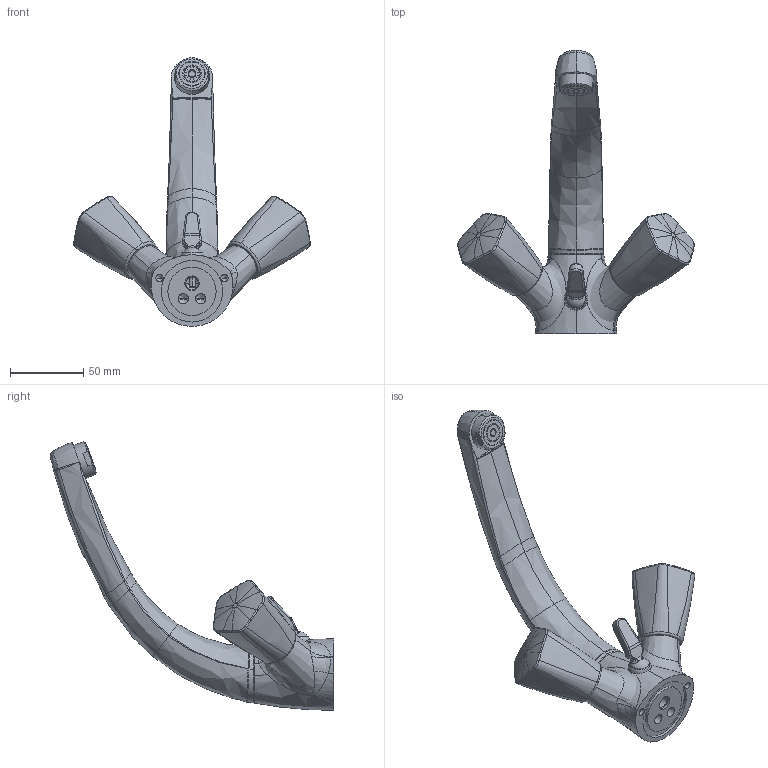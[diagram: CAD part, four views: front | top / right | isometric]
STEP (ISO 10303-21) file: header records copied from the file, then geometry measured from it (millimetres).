
FILE_DESCRIPTION((''),'2;1');
FILE_NAME('501850_SW0001','2020-06-22T14:46:20',('LF994'),(''),'CREO PARAMETRIC BY PTC INC, 2018500','CREO PARAMETRIC BY PTC INC, 2018500','');
FILE_SCHEMA(('CONFIG_CONTROL_DESIGN'));
Products named in the file (1): 501850_SW0001
Bounding box: 161.78 x 193.85 x 183.84 mm (x, y, z)
Volume: 285124.4 mm3; surface area: 80177.7 mm2
Topology: 1 solids, 5 shells, 727 faces, 1734 edges, 1026 vertices
Faces by surface type: bspline 339, cylinder 134, plane 121, cone 78, torus 41, sphere 12, revolution 2
Entity records: 43402 total; most frequent: CARTESIAN_POINT 29198, ORIENTED_EDGE 3428, DIRECTION 2220, EDGE_CURVE 1714, VERTEX_POINT 1026, AXIS2_PLACEMENT_3D 937, B_SPLINE_CURVE_WITH_KNOTS 821, EDGE_LOOP 768
